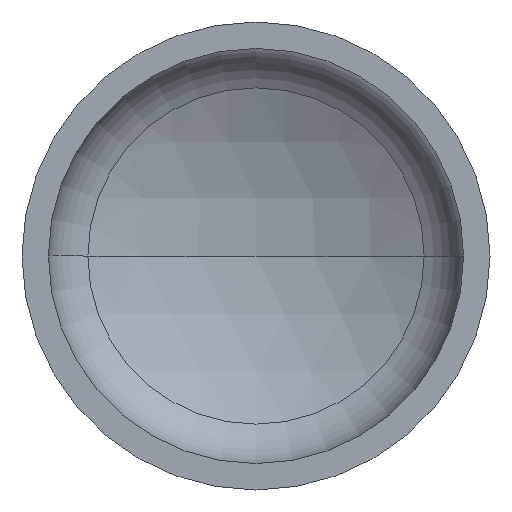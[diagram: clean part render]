
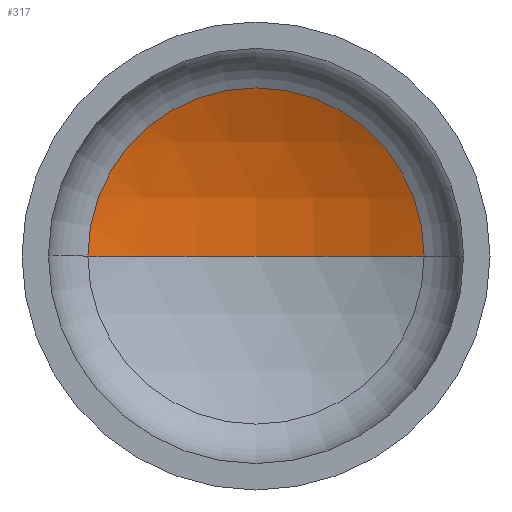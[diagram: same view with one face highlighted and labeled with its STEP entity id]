
A CAD part, front view. The second image highlights one B-rep face of the part: STEP entity #317.
In plain terms, the highlighted spherical face has radius 1360 mm.
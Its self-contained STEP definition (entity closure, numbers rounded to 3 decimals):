
#13 = EDGE_LOOP ( 'NONE', ( #19, #172, #110 ) ) ;
#19 = ORIENTED_EDGE ( 'NONE', *, *, #220, .F. ) ;
#32 = AXIS2_PLACEMENT_3D ( 'NONE', #56, #131, #393 ) ;
#42 = SPHERICAL_SURFACE ( 'NONE', #32, 1360. ) ;
#56 = CARTESIAN_POINT ( 'NONE',  ( 0., -882.835, 0. ) ) ;
#81 = AXIS2_PLACEMENT_3D ( 'NONE', #255, #249, #247 ) ;
#83 = AXIS2_PLACEMENT_3D ( 'NONE', #184, #187, #203 ) ;
#86 = AXIS2_PLACEMENT_3D ( 'NONE', #116, #330, #173 ) ;
#104 = VERTEX_POINT ( 'NONE', #209 ) ;
#110 = ORIENTED_EDGE ( 'NONE', *, *, #213, .T. ) ;
#116 = CARTESIAN_POINT ( 'NONE',  ( 0., 332.306, 0. ) ) ;
#127 = VERTEX_POINT ( 'NONE', #229 ) ;
#131 = DIRECTION ( 'NONE',  ( 0., 0., -1. ) ) ;
#172 = ORIENTED_EDGE ( 'NONE', *, *, #216, .T. ) ;
#173 = DIRECTION ( 'NONE',  ( 1., 0., 0. ) ) ;
#184 = CARTESIAN_POINT ( 'NONE',  ( 0., -882.835, 0. ) ) ;
#187 = DIRECTION ( 'NONE',  ( 0., 0., -1. ) ) ;
#203 = DIRECTION ( 'NONE',  ( -1., 0., 0. ) ) ;
#208 = CIRCLE ( 'NONE', #81, 1360. ) ;
#209 = CARTESIAN_POINT ( 'NONE',  ( 610.764, 332.306, 0. ) ) ;
#213 = EDGE_CURVE ( 'NONE', #104, #252, #394, .T. ) ;
#216 = EDGE_CURVE ( 'NONE', #127, #104, #335, .T. ) ;
#220 = EDGE_CURVE ( 'NONE', #127, #252, #208, .T. ) ;
#229 = CARTESIAN_POINT ( 'NONE',  ( 0., 477.165, 0. ) ) ;
#247 = DIRECTION ( 'NONE',  ( 1., 0., 0. ) ) ;
#249 = DIRECTION ( 'NONE',  ( 0., 0., 1. ) ) ;
#252 = VERTEX_POINT ( 'NONE', #267 ) ;
#255 = CARTESIAN_POINT ( 'NONE',  ( 0., -882.835, 0. ) ) ;
#261 = FACE_OUTER_BOUND ( 'NONE', #13, .T. ) ;
#267 = CARTESIAN_POINT ( 'NONE',  ( -610.764, 332.306, 0. ) ) ;
#317 = ADVANCED_FACE ( 'NONE', ( #261 ), #42, .F. ) ;
#330 = DIRECTION ( 'NONE',  ( 0., -1., 0. ) ) ;
#335 = CIRCLE ( 'NONE', #83, 1360. ) ;
#393 = DIRECTION ( 'NONE',  ( -1., 0., 0. ) ) ;
#394 = CIRCLE ( 'NONE', #86, 610.764 ) ;
